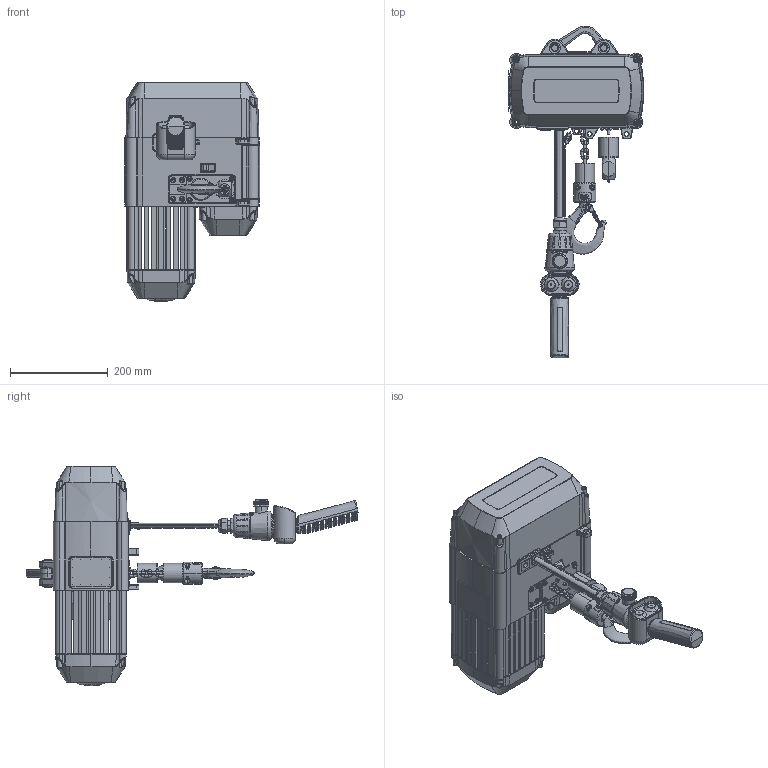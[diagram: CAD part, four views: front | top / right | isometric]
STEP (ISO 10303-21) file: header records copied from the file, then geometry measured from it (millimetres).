
FILE_DESCRIPTION (( 'STEP AP203' ), '1' );
FILE_NAME ('06700006.STEP', '2012-06-18T06:40:49', ( 'Yale Industrial Products GmbH' ), ( 'Yale Industrial Products GmbH' ), 'SwSTEP 2.0', 'SolidWorks 2011', '' );
FILE_SCHEMA (( 'CONFIG_CONTROL_DESIGN' ));
Products named in the file (1): 06700006
Bounding box: 276.86 x 679.27 x 448.5 mm (x, y, z)
Surface area: 719588.6 mm2 (no closed solid volume)
Topology: 0 solids, 152 shells, 2609 faces, 10224 edges, 7494 vertices
Faces by surface type: plane 911, cylinder 689, bspline 509, cone 259, torus 206, sphere 35
Entity records: 168512 total; most frequent: CARTESIAN_POINT 90893, DIRECTION 14923, ORIENTED_EDGE 14876, EDGE_CURVE 10159, VERTEX_POINT 7459, AXIS2_PLACEMENT_3D 5286, VECTOR 4351, LINE 4351
